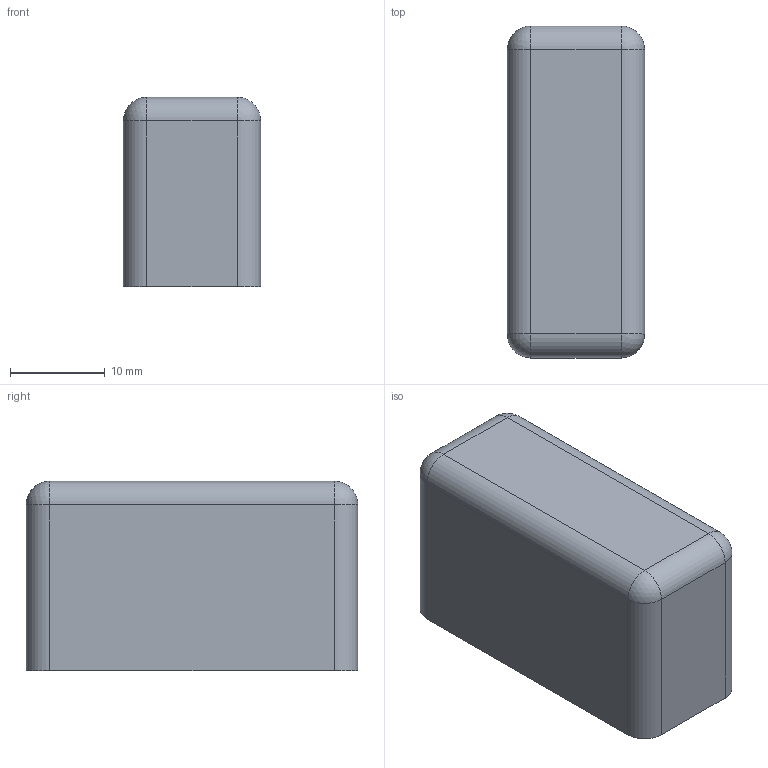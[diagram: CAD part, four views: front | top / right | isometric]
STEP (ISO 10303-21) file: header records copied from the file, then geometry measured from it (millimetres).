
FILE_DESCRIPTION(/* description */ (''),/* implementation_level */ '2;1');
FILE_NAME(/* name */ 'C:/Users/harry/OneDrive - University of Bristol/PhD/COVID/Clean Access/CAD/T Pen Lid.step',/* time_stamp */ '2020-05-11T13:45:54+01:00',/* author */ (''),/* organization */ (''),/* preprocessor_version */ 'ST-DEVELOPER v18.1',/* originating_system */ 'Autodesk Translation Framework v9.2.0.1227',/* authorisation */ '');
FILE_SCHEMA (('AUTOMOTIVE_DESIGN { 1 0 10303 214 3 1 1 }'));
Length unit declared in the file: millimetre
Products named in the file (1): lid
Bounding box: 14.5 x 35 x 20 mm (x, y, z)
Volume: 2774.8 mm3; surface area: 4216.5 mm2
Topology: 1 solids, 1 shells, 35 faces, 76 edges, 40 vertices
Faces by surface type: cylinder 16, plane 11, sphere 4, bspline 4
Entity records: 1048 total; most frequent: CARTESIAN_POINT 269, DIRECTION 168, ORIENTED_EDGE 144, EDGE_CURVE 72, AXIS2_PLACEMENT_3D 64, LINE 40, VECTOR 40, VERTEX_POINT 40
